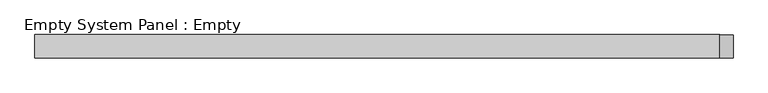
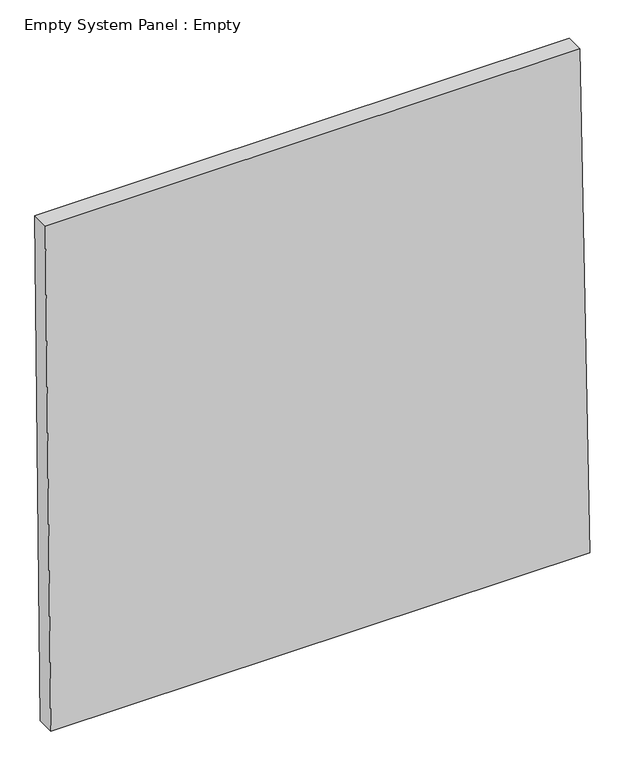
"""IFC4 building model written with IfcOpenShell, lengths in millimetres: plate geometry, Empty System Panel : Empty."""

from ifc_helpers import new_model, si_unit, frame, origin, place, context, project, spatial, polyline, outline, extrude, source, transform, mapped, element, save


def empty_system_panel_empty_97c31541(model_context):
    return source(origin(), model_context, "Body", "SweptSolid", [
        extrude(outline(polyline([(0.0, -1485.0134209), (0.0, 1514.6133702), (2984.5975582, 1457.5087865), (2981.4170651, -1514.6133702), (0.0, -1485.0134209)])), frame((0.0, -50.8, 0.0), z_axis=(0.0, 1.0, 0.0), x_axis=(0.0, 0.0, 1.0)), (0.0, 0.0, 1.0), 101.6),
    ])


if __name__ == "__main__":
    model = new_model("IFC4")
    model_context = context("Model", 3, world=origin())
    ifc_project = project(units=[si_unit("LENGTHUNIT", "METRE", prefix="MILLI")], contexts=[model_context])
    site = spatial("IfcSite", under=ifc_project)
    building = spatial("IfcBuilding", under=site)
    placement = place(None, origin())
    empty_system_panel_empty_shape = empty_system_panel_empty_97c31541(model_context)
    element("IfcPlate", 1, ObjectType="Empty System Panel : Empty", at=placement, inside=building, context=model_context, shape_type="MappedRepresentation", body=[
        mapped(empty_system_panel_empty_shape, transform((0.0, 0.0, 0.0), x_axis=(1.0, 0.0, 0.0), y_axis=(0.0, 1.0, 0.0), z_axis=(0.0, 0.0, 1.0))),
    ])
    save(model, "model.ifc")
